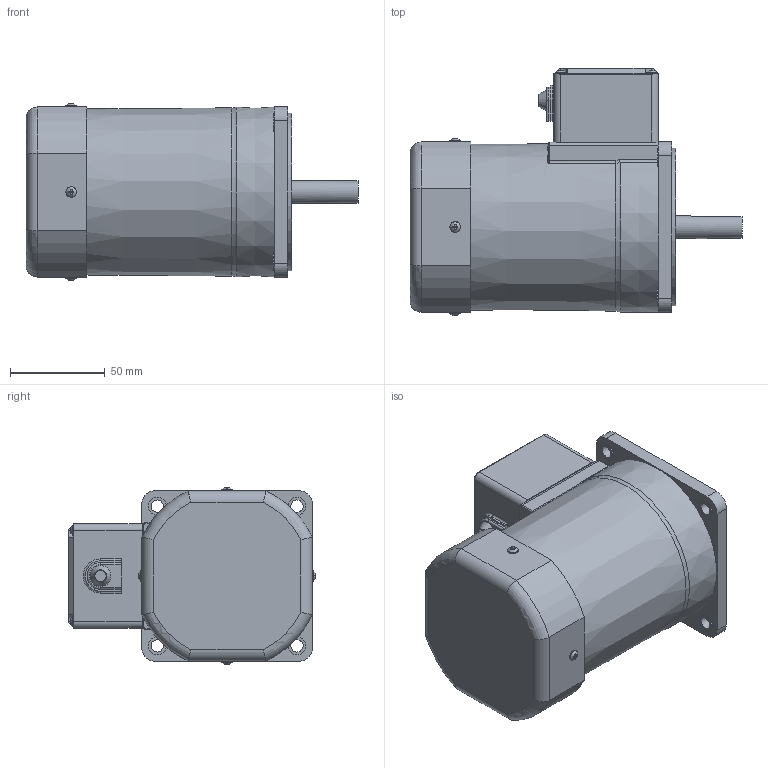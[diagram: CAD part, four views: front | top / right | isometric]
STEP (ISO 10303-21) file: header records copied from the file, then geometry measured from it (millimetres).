
FILE_DESCRIPTION((''),'2;1');
FILE_NAME('D:\STP파일\90W MOTOR\T1 BOX TYPE\S9I90K-T1.stp','2013-05-20T18:46:31',('leebh'),(''),'Autodesk Inventor 2011','Autodesk Inventor 2011','');
FILE_SCHEMA(('AUTOMOTIVE_DESIGN { 1 0 10303 214 1 1 1 1 }'));
Length unit declared in the file: millimetre
Products named in the file (1): S9I90G-T1
Bounding box: 174.8 x 130.44 x 93.49 mm (x, y, z)
Volume: 1013142.6 mm3; surface area: 71436.5 mm2
Topology: 1 solids, 6 shells, 325 faces, 814 edges, 519 vertices
Faces by surface type: plane 188, cylinder 75, bspline 28, torus 27, cone 7
Full cylindrical faces by diameter (mm): 3 x4, 3.5 x4, 5.6 x8, 6.5 x4, 8 x1, 9.5 x4, 12 x1, 40 x1, 83 x1
Entity records: 10542 total; most frequent: CARTESIAN_POINT 3106, ORIENTED_EDGE 1484, DIRECTION 1394, EDGE_CURVE 742, VERTEX_POINT 508, AXIS2_PLACEMENT_3D 500, EDGE_LOOP 420, VECTOR 394
